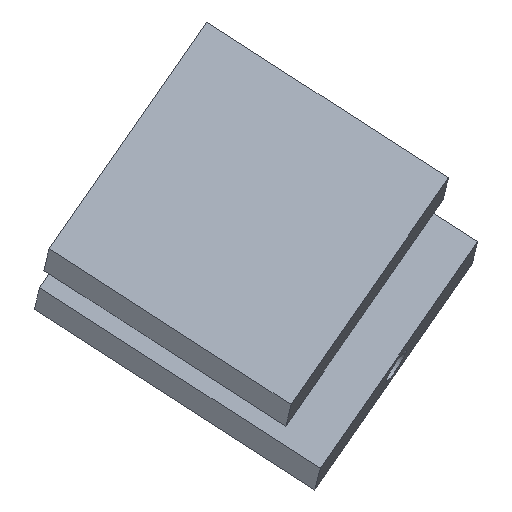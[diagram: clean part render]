
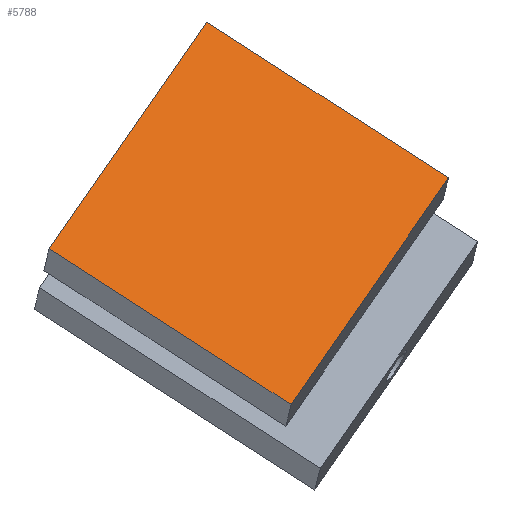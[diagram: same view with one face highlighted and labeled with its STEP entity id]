
A CAD part, top view. The second image highlights one B-rep face of the part: STEP entity #5788.
In plain terms, the highlighted planar face has unit normal (0.076, 0.309, 0.948).
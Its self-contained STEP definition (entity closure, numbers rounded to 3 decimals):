
#214=PLANE($,#6210);
#383=LINE($,#12546,#812);
#387=LINE($,#12554,#816);
#390=LINE($,#12560,#819);
#393=LINE($,#12565,#822);
#812=VECTOR($,#6772,25.);
#816=VECTOR($,#6778,25.);
#819=VECTOR($,#6783,25.);
#822=VECTOR($,#6788,25.);
#1626=FACE_OUTER_BOUND($,#2139,.T.);
#2139=EDGE_LOOP($,(#4412,#4413,#4414,#4415));
#2692=VERTEX_POINT($,#12544);
#2693=VERTEX_POINT($,#12545);
#2696=VERTEX_POINT($,#12553);
#2698=VERTEX_POINT($,#12559);
#3334=EDGE_CURVE($,#2692,#2693,#383,.T.);
#3338=EDGE_CURVE($,#2693,#2696,#387,.T.);
#3341=EDGE_CURVE($,#2696,#2698,#390,.T.);
#3344=EDGE_CURVE($,#2698,#2692,#393,.T.);
#4412=ORIENTED_EDGE($,*,*,#3334,.F.);
#4413=ORIENTED_EDGE($,*,*,#3344,.F.);
#4414=ORIENTED_EDGE($,*,*,#3341,.F.);
#4415=ORIENTED_EDGE($,*,*,#3338,.F.);
#5788=ADVANCED_FACE($,(#1626),#214,.T.);
#6210=AXIS2_PLACEMENT_3D($,#12568,#6792,#6793);
#6772=DIRECTION($,(-0.544,-0.784,0.299));
#6778=DIRECTION($,(-0.836,0.538,-0.108));
#6783=DIRECTION($,(0.544,0.784,-0.299));
#6788=DIRECTION($,(0.836,-0.538,0.108));
#6792=DIRECTION('center_axis',(0.076,0.309,0.948));
#6793=DIRECTION('ref_axis',(-0.836,0.538,-0.108));
#12544=CARTESIAN_POINT('',(37.907,20.767,7.983));
#12545=CARTESIAN_POINT('',(24.312,1.168,15.468));
#12546=CARTESIAN_POINT($,(24.312,1.168,15.468));
#12553=CARTESIAN_POINT('',(3.419,14.626,12.757));
#12554=CARTESIAN_POINT($,(3.419,14.626,12.757));
#12559=CARTESIAN_POINT('',(17.014,34.225,5.272));
#12560=CARTESIAN_POINT($,(17.014,34.225,5.272));
#12565=CARTESIAN_POINT($,(37.907,20.767,7.983));
#12568=CARTESIAN_POINT('Origin',(20.663,17.697,10.37));
